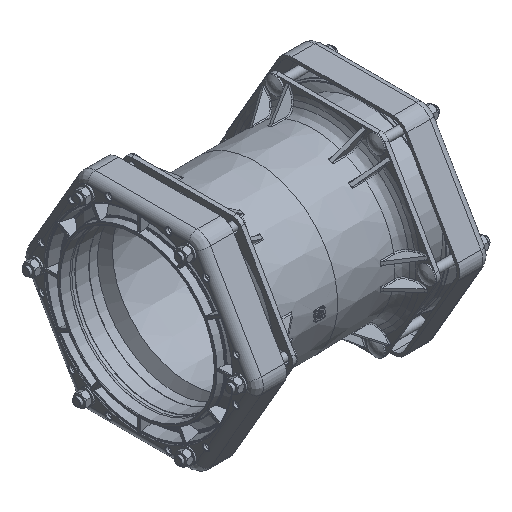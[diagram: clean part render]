
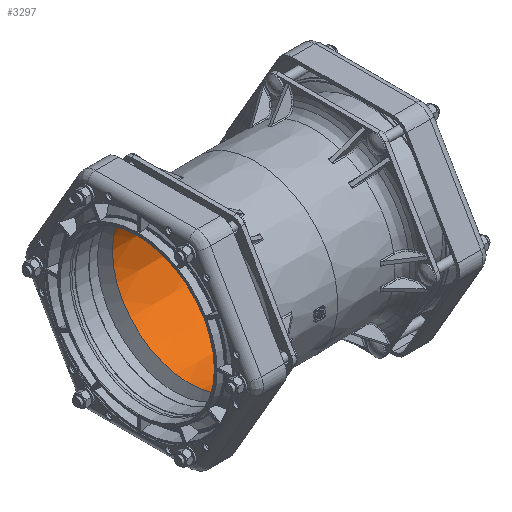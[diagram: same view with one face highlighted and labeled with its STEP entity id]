
A CAD part, isometric view. The second image highlights one B-rep face of the part: STEP entity #3297.
In plain terms, the highlighted conical face has half-angle 0.844 degrees and reference radius 16.564 mm.
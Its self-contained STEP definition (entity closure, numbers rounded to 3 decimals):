
#3266=CARTESIAN_POINT('',(-150.0,157.75,0.));
#3267=VERTEX_POINT('',#3266);
#3268=CARTESIAN_POINT('',(-150.0,0.0,0.0));
#3269=DIRECTION('',(-1.0,0.0,0.0));
#3270=DIRECTION('',(0.0,-1.0,0.0));
#3271=AXIS2_PLACEMENT_3D('',#3268,#3269,#3270);
#3272=CIRCLE('',#3271,157.75);
#3273=EDGE_CURVE('',#3267,#3267,#3272,.T.);
#3278=CARTESIAN_POINT('',(-9734.966,0.,0.));
#3279=DIRECTION('',(1.0,0.,0.));
#3280=DIRECTION('',(0.0,0.0,-1.0));
#3281=AXIS2_PLACEMENT_3D('',#3278,#3279,#3280);
#3282=CONICAL_SURFACE('',#3281,16.564,0.844);
#3283=ORIENTED_EDGE('',*,*,#3273,.F.);
#3284=EDGE_LOOP('',(#3283));
#3285=FACE_OUTER_BOUND('',#3284,.T.);
#3286=CARTESIAN_POINT('',(-285.778,155.75,0.));
#3287=VERTEX_POINT('',#3286);
#3288=CARTESIAN_POINT('',(-285.778,0.0,0.0));
#3289=DIRECTION('',(-1.0,0.0,0.0));
#3290=DIRECTION('',(0.0,-1.0,0.0));
#3291=AXIS2_PLACEMENT_3D('',#3288,#3289,#3290);
#3292=CIRCLE('',#3291,155.75);
#3293=EDGE_CURVE('',#3287,#3287,#3292,.T.);
#3294=ORIENTED_EDGE('',*,*,#3293,.T.);
#3295=EDGE_LOOP('',(#3294));
#3296=FACE_BOUND('',#3295,.T.);
#3297=ADVANCED_FACE('',(#3285,#3296),#3282,.F.);
